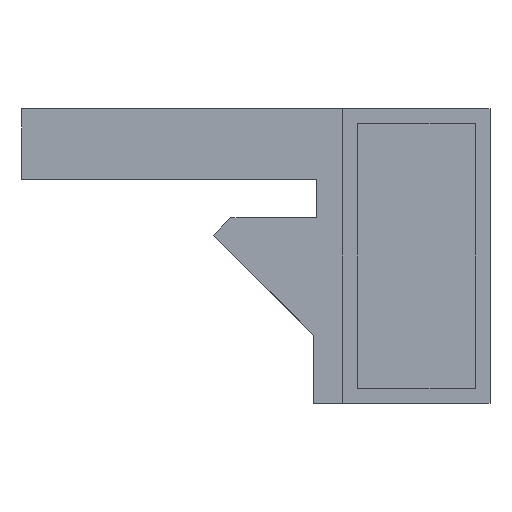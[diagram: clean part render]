
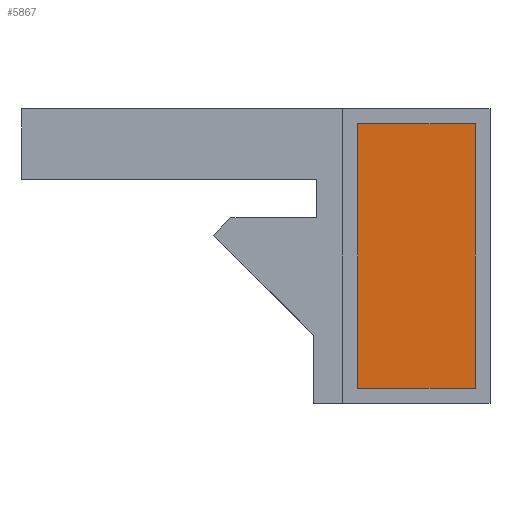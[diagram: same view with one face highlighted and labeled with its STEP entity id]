
A CAD part, front view. The second image highlights one B-rep face of the part: STEP entity #5867.
In plain terms, the highlighted planar face has unit normal (0, -1, 0).
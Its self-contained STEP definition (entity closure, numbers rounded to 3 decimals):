
#2458 = PLANE('',#2459);
#2459 = AXIS2_PLACEMENT_3D('',#2460,#2461,#2462);
#2460 = CARTESIAN_POINT('',(71.,-10.,37.5));
#2461 = DIRECTION('',(0.,0.,-1.));
#2462 = DIRECTION('',(-1.,0.,0.));
#2486 = PLANE('',#2487);
#2487 = AXIS2_PLACEMENT_3D('',#2488,#2489,#2490);
#2488 = CARTESIAN_POINT('',(71.,-10.,37.5));
#2489 = DIRECTION('',(1.,0.,0.));
#2490 = DIRECTION('',(0.,0.,-1.));
#2514 = PLANE('',#2515);
#2515 = AXIS2_PLACEMENT_3D('',#2516,#2517,#2518);
#2516 = CARTESIAN_POINT('',(51.,-10.,-7.5));
#2517 = DIRECTION('',(0.,0.,1.));
#2518 = DIRECTION('',(1.,0.,0.));
#2540 = PLANE('',#2541);
#2541 = AXIS2_PLACEMENT_3D('',#2542,#2543,#2544);
#2542 = CARTESIAN_POINT('',(51.,-10.,37.5));
#2543 = DIRECTION('',(1.,0.,0.));
#2544 = DIRECTION('',(0.,0.,-1.));
#5151 = VERTEX_POINT('',#5152);
#5152 = CARTESIAN_POINT('',(71.,-10.,37.5));
#5175 = VERTEX_POINT('',#5176);
#5176 = CARTESIAN_POINT('',(51.,-10.,37.5));
#5197 = EDGE_CURVE('',#5151,#5175,#5198,.T.);
#5198 = SURFACE_CURVE('',#5199,(#5203,#5210),.PCURVE_S1.);
#5199 = LINE('',#5200,#5201);
#5200 = CARTESIAN_POINT('',(71.,-10.,37.5));
#5201 = VECTOR('',#5202,1.);
#5202 = DIRECTION('',(-1.,0.,0.));
#5203 = PCURVE('',#2458,#5204);
#5204 = DEFINITIONAL_REPRESENTATION('',(#5205),#5209);
#5205 = LINE('',#5206,#5207);
#5206 = CARTESIAN_POINT('',(0.,0.));
#5207 = VECTOR('',#5208,1.);
#5208 = DIRECTION('',(1.,-0.));
#5209 = ( GEOMETRIC_REPRESENTATION_CONTEXT(2) 
PARAMETRIC_REPRESENTATION_CONTEXT() REPRESENTATION_CONTEXT('2D SPACE',''
  ) );
#5210 = PCURVE('',#5211,#5216);
#5211 = PLANE('',#5212);
#5212 = AXIS2_PLACEMENT_3D('',#5213,#5214,#5215);
#5213 = CARTESIAN_POINT('',(73.5,-10.,40.));
#5214 = DIRECTION('',(0.,1.,0.));
#5215 = DIRECTION('',(0.,0.,1.));
#5216 = DEFINITIONAL_REPRESENTATION('',(#5217),#5221);
#5217 = LINE('',#5218,#5219);
#5218 = CARTESIAN_POINT('',(-2.5,-2.5));
#5219 = VECTOR('',#5220,1.);
#5220 = DIRECTION('',(0.,-1.));
#5221 = ( GEOMETRIC_REPRESENTATION_CONTEXT(2) 
PARAMETRIC_REPRESENTATION_CONTEXT() REPRESENTATION_CONTEXT('2D SPACE',''
  ) );
#5229 = VERTEX_POINT('',#5230);
#5230 = CARTESIAN_POINT('',(71.,-10.,-7.5));
#5251 = EDGE_CURVE('',#5151,#5229,#5252,.T.);
#5252 = SURFACE_CURVE('',#5253,(#5257,#5264),.PCURVE_S1.);
#5253 = LINE('',#5254,#5255);
#5254 = CARTESIAN_POINT('',(71.,-10.,37.5));
#5255 = VECTOR('',#5256,1.);
#5256 = DIRECTION('',(0.,0.,-1.));
#5257 = PCURVE('',#2486,#5258);
#5258 = DEFINITIONAL_REPRESENTATION('',(#5259),#5263);
#5259 = LINE('',#5260,#5261);
#5260 = CARTESIAN_POINT('',(0.,0.));
#5261 = VECTOR('',#5262,1.);
#5262 = DIRECTION('',(1.,0.));
#5263 = ( GEOMETRIC_REPRESENTATION_CONTEXT(2) 
PARAMETRIC_REPRESENTATION_CONTEXT() REPRESENTATION_CONTEXT('2D SPACE',''
  ) );
#5264 = PCURVE('',#5211,#5265);
#5265 = DEFINITIONAL_REPRESENTATION('',(#5266),#5270);
#5266 = LINE('',#5267,#5268);
#5267 = CARTESIAN_POINT('',(-2.5,-2.5));
#5268 = VECTOR('',#5269,1.);
#5269 = DIRECTION('',(-1.,0.));
#5270 = ( GEOMETRIC_REPRESENTATION_CONTEXT(2) 
PARAMETRIC_REPRESENTATION_CONTEXT() REPRESENTATION_CONTEXT('2D SPACE',''
  ) );
#5288 = VERTEX_POINT('',#5289);
#5289 = CARTESIAN_POINT('',(51.,-10.,-7.5));
#5312 = EDGE_CURVE('',#5288,#5229,#5313,.T.);
#5313 = SURFACE_CURVE('',#5314,(#5318,#5325),.PCURVE_S1.);
#5314 = LINE('',#5315,#5316);
#5315 = CARTESIAN_POINT('',(51.,-10.,-7.5));
#5316 = VECTOR('',#5317,1.);
#5317 = DIRECTION('',(1.,0.,0.));
#5318 = PCURVE('',#2514,#5319);
#5319 = DEFINITIONAL_REPRESENTATION('',(#5320),#5324);
#5320 = LINE('',#5321,#5322);
#5321 = CARTESIAN_POINT('',(0.,0.));
#5322 = VECTOR('',#5323,1.);
#5323 = DIRECTION('',(1.,0.));
#5324 = ( GEOMETRIC_REPRESENTATION_CONTEXT(2) 
PARAMETRIC_REPRESENTATION_CONTEXT() REPRESENTATION_CONTEXT('2D SPACE',''
  ) );
#5325 = PCURVE('',#5211,#5326);
#5326 = DEFINITIONAL_REPRESENTATION('',(#5327),#5331);
#5327 = LINE('',#5328,#5329);
#5328 = CARTESIAN_POINT('',(-47.5,-22.5));
#5329 = VECTOR('',#5330,1.);
#5330 = DIRECTION('',(0.,1.));
#5331 = ( GEOMETRIC_REPRESENTATION_CONTEXT(2) 
PARAMETRIC_REPRESENTATION_CONTEXT() REPRESENTATION_CONTEXT('2D SPACE',''
  ) );
#5339 = EDGE_CURVE('',#5175,#5288,#5340,.T.);
#5340 = SURFACE_CURVE('',#5341,(#5345,#5352),.PCURVE_S1.);
#5341 = LINE('',#5342,#5343);
#5342 = CARTESIAN_POINT('',(51.,-10.,37.5));
#5343 = VECTOR('',#5344,1.);
#5344 = DIRECTION('',(0.,0.,-1.));
#5345 = PCURVE('',#2540,#5346);
#5346 = DEFINITIONAL_REPRESENTATION('',(#5347),#5351);
#5347 = LINE('',#5348,#5349);
#5348 = CARTESIAN_POINT('',(0.,0.));
#5349 = VECTOR('',#5350,1.);
#5350 = DIRECTION('',(1.,0.));
#5351 = ( GEOMETRIC_REPRESENTATION_CONTEXT(2) 
PARAMETRIC_REPRESENTATION_CONTEXT() REPRESENTATION_CONTEXT('2D SPACE',''
  ) );
#5352 = PCURVE('',#5211,#5353);
#5353 = DEFINITIONAL_REPRESENTATION('',(#5354),#5358);
#5354 = LINE('',#5355,#5356);
#5355 = CARTESIAN_POINT('',(-2.5,-22.5));
#5356 = VECTOR('',#5357,1.);
#5357 = DIRECTION('',(-1.,0.));
#5358 = ( GEOMETRIC_REPRESENTATION_CONTEXT(2) 
PARAMETRIC_REPRESENTATION_CONTEXT() REPRESENTATION_CONTEXT('2D SPACE',''
  ) );
#5867 = ADVANCED_FACE('',(#5868),#5211,.F.);
#5868 = FACE_BOUND('',#5869,.F.);
#5869 = EDGE_LOOP('',(#5870,#5871,#5872,#5873));
#5870 = ORIENTED_EDGE('',*,*,#5197,.F.);
#5871 = ORIENTED_EDGE('',*,*,#5251,.T.);
#5872 = ORIENTED_EDGE('',*,*,#5312,.F.);
#5873 = ORIENTED_EDGE('',*,*,#5339,.F.);
